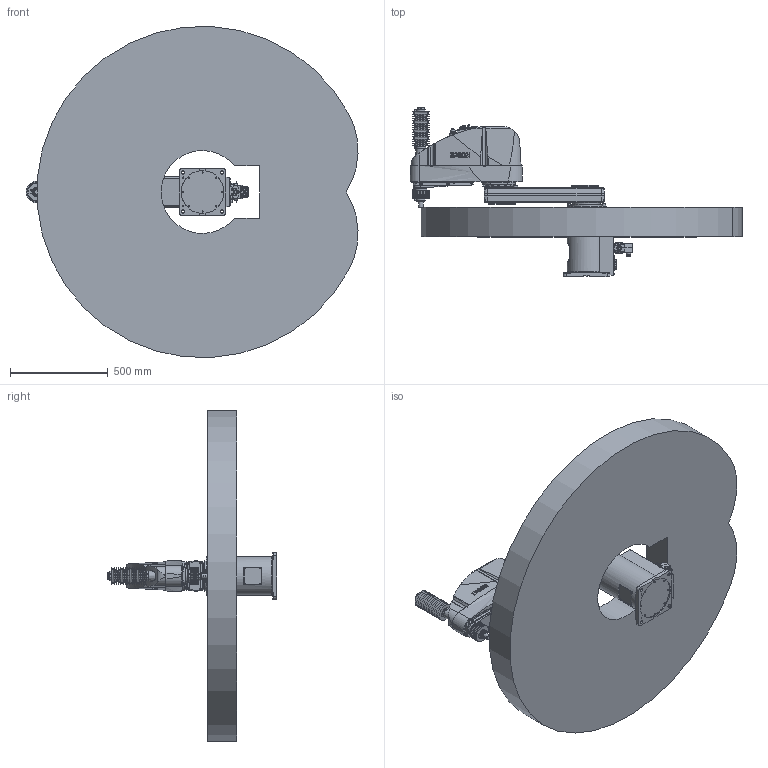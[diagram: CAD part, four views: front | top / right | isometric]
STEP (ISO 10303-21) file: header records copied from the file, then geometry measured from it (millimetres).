
FILE_DESCRIPTION( ( 'STEP AP214' ), '1' );
FILE_NAME( 'C:/Users/9607552/Desktop/GX20-B851C_langle.stp', '2023-08-01T09:29:35', ( '' ), ( '' ), ' ', 'PARTsolutions', ' ' );
FILE_SCHEMA( ( 'AUTOMOTIVE_DESIGN { 1 0 10303 214 1 1 1 1 }' ) );
Length unit declared in the file: millimetre
Products named in the file (7): GX20-B851CA-W; _Base c; _Angle-B; _J1 Arm GX10-450; _J2 Arm GX10-c; _J3 Arm GX10-c (1); _GX10_20B-23_1
Assembly tree (6 placements, depth 2):
  GX20-B851CA-W
    _Base c
    _Angle-B
    _J1 Arm GX10-450
    _J2 Arm GX10-c
    _J3 Arm GX10-c (1)
    _GX10_20B-23_1
Bounding box: 1702.55 x 870.5 x 1697.41 mm (x, y, z)
Volume: 352453213.4 mm3; surface area: 6894129.8 mm2
Topology: 6 solids, 6 shells, 2448 faces, 6027 edges, 3920 vertices
Faces by surface type: plane 1291, cylinder 736, cone 316, torus 67, bspline 37, sphere 1
Full cylindrical faces by diameter (mm): 1.18 x55, 2.5 x2, 3 x32, 3.242 x10, 3.3 x9, 4 x2, 4.2 x2, 4.8 x4, 5.1 x4, 5.34 x4, 5.5 x12, 6 x3, 6.2 x2, 6.647 x2, 7 x27, 7.5 x1, 8 x4, 8.5 x2, 9 x4, 10 x32, 10.5 x4, 11 x14, 12 x7, 12.25 x1, 13 x2, 14 x8, 14.25 x1, 16 x7, 18 x1, 20.4 x1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
Entity records: 92604 total; most frequent: CARTESIAN_POINT 17372, DIRECTION 11543, ORIENTED_EDGE 10608, EDGE_CURVE 5304, AXIS2_PLACEMENT_3D 4371, VERTEX_POINT 3819, EDGE_LOOP 3430, LINE 2801
